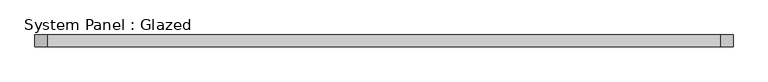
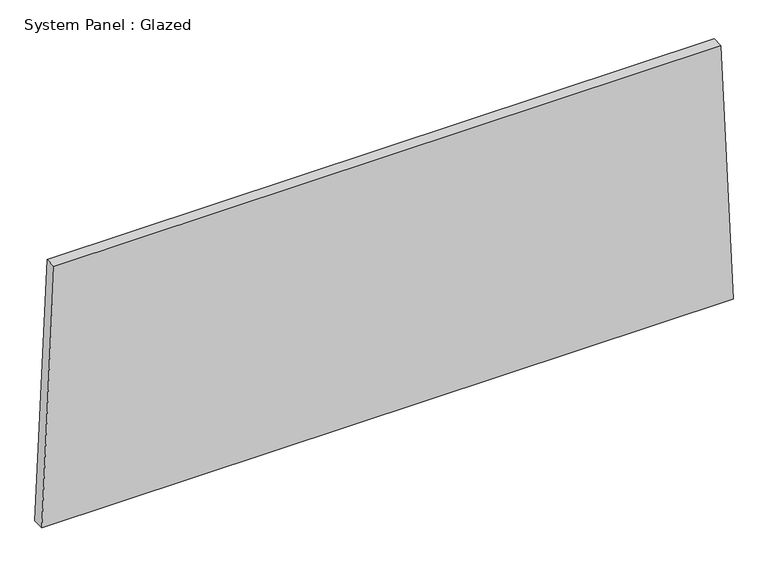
"""IFC4 building model written with IfcOpenShell, lengths in millimetres: plate geometry, System Panel : Glazed."""

import ifcopenshell
import ifcopenshell.guid

model = None  # the IFC model being written
_history = None  # IfcOwnerHistory: only IFC2X3 demands one
_inside = {}  # id of a spatial element -> (the spatial element, [elements in it])
_under = {}  # id of a project, library or spatial element -> (it, [spatial elements below it])
_declared = {}  # id of a project -> (the project, [libraries it declares])
_typed = {}  # id of a type object -> (the type object, [elements of that type])
_made_of = {}  # id of a material, layer set ... -> (it, [elements and type objects made of it])


def new_model(schema):
    """Start an empty IFC model of exactly this schema.

    Asked for "IFC4X3", IfcOpenShell would pick the latest addendum, in which some entities
    have other attributes; the version numbers below select the first issue.
    IFC2X3 requires an IfcOwnerHistory on every rooted entity: one is made here for all.
    """
    global model, _history
    if schema == "IFC4X3":
        model = ifcopenshell.file(schema_version=(4, 3, 0, 0))
    else:
        model = ifcopenshell.file(schema=schema)
    _inside.clear()
    _under.clear()
    _declared.clear()
    _typed.clear()
    _made_of.clear()
    _history = None
    if model.schema == "IFC2X3":
        org = make("IfcOrganization", Name="unknown")
        user = make(
            "IfcPersonAndOrganization",
            ThePerson=make("IfcPerson", FamilyName="unknown"),
            TheOrganization=org,
        )
        app = make(
            "IfcApplication",
            ApplicationDeveloper=org,
            Version="unknown",
            ApplicationFullName="unknown",
            ApplicationIdentifier="unknown",
        )
        _history = make(
            "IfcOwnerHistory",
            OwningUser=user,
            OwningApplication=app,
            ChangeAction="ADDED",
            CreationDate=0,
        )
    return model


def make(cls, **values):
    """One entity of the class cls with the attributes given. An attribute that is None is left unset."""
    return model.create_entity(
        cls, **{name: value for name, value in values.items() if value is not None}
    )


def rooted(cls, **values):
    """An entity with a GlobalId (a new one), such as an element, a storey or a relation."""
    return make(cls, GlobalId=ifcopenshell.guid.new(), OwnerHistory=_history, **values)


def si_unit(unit_type, name, prefix=None):
    """IfcSIUnit, for example si_unit("LENGTHUNIT", "METRE", prefix="MILLI")."""
    return make("IfcSIUnit", UnitType=unit_type, Prefix=prefix, Name=name)


def assignment(units):
    """IfcUnitAssignment: the units of a project."""
    return None if units is None else make("IfcUnitAssignment", Units=units)


def point(xyz):
    """IfcCartesianPoint."""
    return None if xyz is None else make("IfcCartesianPoint", Coordinates=xyz)


def direction(xyz):
    """IfcDirection."""
    return None if xyz is None else make("IfcDirection", DirectionRatios=xyz)


def frame(location, z_axis=None, x_axis=None):
    """IfcAxis2Placement3D, a coordinate frame: its origin and axes. An axis left out is left unset."""
    return make(
        "IfcAxis2Placement3D",
        Location=point(location),
        Axis=direction(z_axis),
        RefDirection=direction(x_axis),
    )


def origin():
    """The frame at (0, 0, 0) with its axes left unset."""
    return frame((0.0, 0.0, 0.0))


def place(relative_to, where):
    """IfcLocalPlacement: puts the frame where relative to a parent placement (None: the world)."""
    return make(
        "IfcLocalPlacement", PlacementRelTo=relative_to, RelativePlacement=where
    )


def context(
    kind, dimensions, precision=None, world=None, true_north=None, identifier=None
):
    """IfcGeometricRepresentationContext, for example the 3D "Model" context."""
    return make(
        "IfcGeometricRepresentationContext",
        ContextIdentifier=identifier,
        ContextType=kind,
        CoordinateSpaceDimension=dimensions,
        Precision=precision,
        WorldCoordinateSystem=world,
        TrueNorth=true_north,
    )


def project(units=None, contexts=None):
    """IfcProject with its units and contexts."""
    return rooted(
        "IfcProject",
        Name="project",
        RepresentationContexts=contexts,
        UnitsInContext=assignment(units),
    )


def spatial(cls, under=None, at=None, **own):
    """A site, building, storey or space (cls), placed at a placement, below another one or the project."""
    s = rooted(cls, ObjectPlacement=at, **own)
    if under is not None:
        _under.setdefault(under.id(), (under, []))[1].append(s)
    return s


def polyline(points):
    """IfcPolyline through the points."""
    return make("IfcPolyline", Points=[point(p) for p in points])


def outline(outer, holes=None, kind="AREA"):
    """IfcArbitraryClosedProfileDef: a profile drawn as a closed curve; with holes, ...WithVoids."""
    if holes is None:
        return make("IfcArbitraryClosedProfileDef", ProfileType=kind, OuterCurve=outer)
    return make(
        "IfcArbitraryProfileDefWithVoids",
        ProfileType=kind,
        OuterCurve=outer,
        InnerCurves=holes,
    )


def extrude(swept, where, along, depth):
    """IfcExtrudedAreaSolid: the profile swept, set in the frame where, extruded along a direction by depth."""
    return make(
        "IfcExtrudedAreaSolid",
        SweptArea=swept,
        Position=where,
        ExtrudedDirection=direction(along),
        Depth=depth,
    )


def shape(context_of_items, identifier, shape_type, items):
    """IfcShapeRepresentation: the items that make up one representation, for example the "Body"."""
    return make(
        "IfcShapeRepresentation",
        ContextOfItems=context_of_items,
        RepresentationIdentifier=identifier,
        RepresentationType=shape_type,
        Items=items,
    )


def source(mapping_origin, context_of_items, identifier, shape_type, items):
    """IfcRepresentationMap: a shape defined once, which mapped items show again and again."""
    return make(
        "IfcRepresentationMap",
        MappingOrigin=mapping_origin,
        MappedRepresentation=shape(context_of_items, identifier, shape_type, items),
    )


def transform(
    local_origin,
    x_axis=None,
    y_axis=None,
    z_axis=None,
    scale=None,
    scale2=None,
    scale3=None,
    uniform=True,
):
    """IfcCartesianTransformationOperator3D, or its non-uniform kind. x_axis, y_axis, z_axis: its Axis1, 2, 3."""
    if uniform:
        return make(
            "IfcCartesianTransformationOperator3D",
            Axis1=direction(x_axis),
            Axis2=direction(y_axis),
            LocalOrigin=point(local_origin),
            Scale=scale,
            Axis3=direction(z_axis),
        )
    return make(
        "IfcCartesianTransformationOperator3DnonUniform",
        Axis1=direction(x_axis),
        Axis2=direction(y_axis),
        LocalOrigin=point(local_origin),
        Scale=scale,
        Axis3=direction(z_axis),
        Scale2=scale2,
        Scale3=scale3,
    )


def mapped(mapping_source, mapping_target):
    """IfcMappedItem: shows the shape of a source again, moved by a transform."""
    return make(
        "IfcMappedItem", MappingSource=mapping_source, MappingTarget=mapping_target
    )


def made_of(thing, what):
    """Note that an element or type object is made of a material, layer set ...; save() writes the relation."""
    if what is not None:
        _made_of.setdefault(what.id(), (what, []))[1].append(thing)
    return thing


def element(
    cls,
    number,
    at=None,
    inside=None,
    cuts=None,
    type_object=None,
    material=None,
    context=None,
    identifier="Body",
    shape_type=None,
    held_by="IfcProductDefinitionShape",
    body=None,
    shapes=None,
    **own,
):
    """One element of the class cls, such as IfcWall. Its Tag is "e" and its number.

    at: its placement. inside: the storey or other place that contains it. cuts: it is an
    opening in that element (IfcRelVoidsElement). A single representation is given by context,
    identifier, shape_type and body (its items); several are given by shapes. held_by: the class
    of the entity that holds the representations. save() writes the other relations.
    """
    e = rooted(cls, Tag="e%d" % number, ObjectPlacement=at, **own)
    if body is not None:
        shapes = [shape(context, identifier, shape_type, body)]
    if shapes is not None:
        e.Representation = make(held_by, Representations=shapes)
    if inside is not None:
        _inside.setdefault(inside.id(), (inside, []))[1].append(e)
    if cuts is not None:
        rooted(
            "IfcRelVoidsElement", RelatingBuildingElement=cuts, RelatedOpeningElement=e
        )
    if type_object is not None:
        _typed.setdefault(type_object.id(), (type_object, []))[1].append(e)
    return made_of(e, material)


def aggregate(whole, parts):
    """IfcRelAggregates: a whole, such as a stair, and the parts it consists of."""
    return rooted("IfcRelAggregates", RelatingObject=whole, RelatedObjects=parts)


def save(model, path):
    """Write the relations noted so far, then the file.

    IfcRelAggregates (storeys below a building ...), IfcRelContainedInSpatialStructure (elements
    in a storey), IfcRelDefinesByType, IfcRelAssociatesMaterial and IfcRelDeclares: one each for
    every whole, place, type object, material and project.
    """
    for whole, parts in _under.values():
        aggregate(whole, parts)
    for where, things in _inside.values():
        rooted(
            "IfcRelContainedInSpatialStructure",
            RelatedElements=things,
            RelatingStructure=where,
        )
    for kind, things in _typed.values():
        rooted("IfcRelDefinesByType", RelatedObjects=things, RelatingType=kind)
    for what, things in _made_of.values():
        rooted("IfcRelAssociatesMaterial", RelatedObjects=things, RelatingMaterial=what)
    for by, libraries in _declared.values():
        rooted("IfcRelDeclares", RelatingContext=by, RelatedDefinitions=libraries)
    model.write(path)


def system_panel_glazed_7dd4ad5a(model_context):
    return source(origin(), model_context, "Body", "SweptSolid", [
        extrude(outline(polyline([(0.0, -740.6371675), (0.0, 740.6371675), (583.5928452, 714.5710238), (583.5928452, -714.5710238), (0.0, -740.6371675)])), frame((0.0, 19.05, 0.0), z_axis=(0.0, 1.0, 0.0), x_axis=(0.0, 0.0, 1.0)), (0.0, 0.0, 1.0), 25.4),
    ])


if __name__ == "__main__":
    model = new_model("IFC4")
    model_context = context("Model", 3, world=origin())
    ifc_project = project(units=[si_unit("LENGTHUNIT", "METRE", prefix="MILLI")], contexts=[model_context])
    site = spatial("IfcSite", under=ifc_project)
    building = spatial("IfcBuilding", under=site)
    placement = place(None, origin())
    system_panel_glazed_shape = system_panel_glazed_7dd4ad5a(model_context)
    element("IfcPlate", 1, ObjectType="System Panel : Glazed", at=placement, inside=building, context=model_context, shape_type="MappedRepresentation", body=[
        mapped(system_panel_glazed_shape, transform((0.0, 0.0, 0.0), x_axis=(1.0, 0.0, 0.0), y_axis=(0.0, 1.0, 0.0), z_axis=(0.0, 0.0, 1.0))),
    ])
    save(model, "model.ifc")
